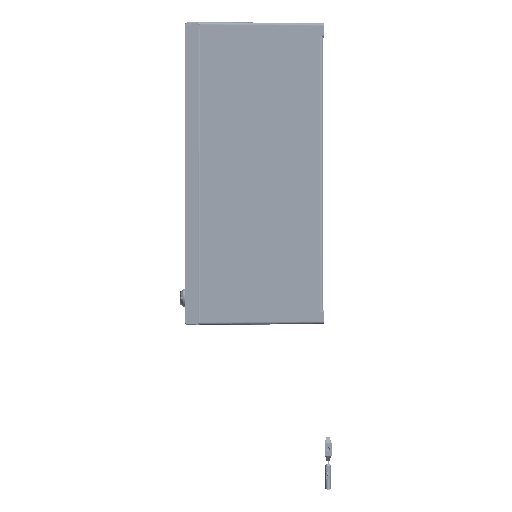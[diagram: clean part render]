
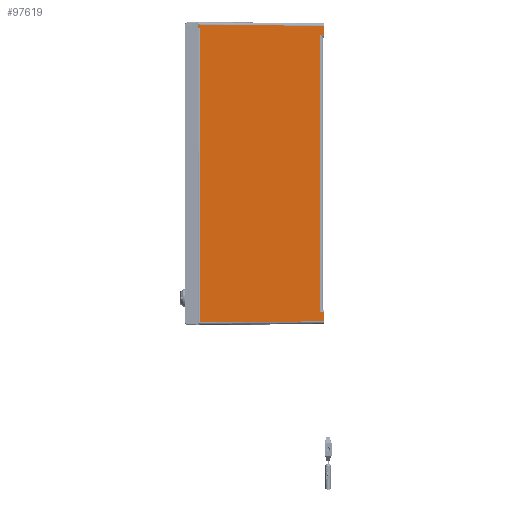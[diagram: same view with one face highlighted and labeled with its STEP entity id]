
A CAD part, left-side view. The second image highlights one B-rep face of the part: STEP entity #97619.
In plain terms, the highlighted planar face has unit normal (-1, -0.018, 0).
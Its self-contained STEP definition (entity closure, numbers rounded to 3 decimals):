
#7093=FACE_OUTER_BOUND('',#13598,.T.);
#13598=EDGE_LOOP('',(#66923,#66924,#66925,#66926,#66927,#66928,#66929,#66930,
#66931,#66932,#66933,#66934,#66935));
#20549=B_SPLINE_CURVE_WITH_KNOTS('',3,(#155851,#155852,#155853,#155854,
#155855),.UNSPECIFIED.,.F.,.F.,(4,1,4),(0.,0.5,1.),.UNSPECIFIED.);
#20554=B_SPLINE_CURVE_WITH_KNOTS('',3,(#156136,#156137,#156138,#156139,
#156140,#156141,#156142,#156143,#156144,#156145,#156146,#156147),
 .UNSPECIFIED.,.F.,.F.,(4,1,1,1,1,1,1,1,1,4),(0.,0.111,0.222,
0.333,0.444,0.556,0.667,0.778,
0.889,1.),.UNSPECIFIED.);
#28727=LINE('',#153704,#35032);
#28751=LINE('',#155440,#35056);
#28752=LINE('',#155593,#35057);
#28761=LINE('',#156122,#35066);
#28762=LINE('',#156125,#35067);
#28763=LINE('',#156127,#35068);
#28764=LINE('',#156129,#35069);
#28765=LINE('',#156130,#35070);
#28766=LINE('',#156131,#35071);
#28767=LINE('',#156133,#35072);
#28768=LINE('',#156135,#35073);
#35032=VECTOR('',#116728,14.936);
#35056=VECTOR('',#116824,14.936);
#35057=VECTOR('',#116829,203.617);
#35066=VECTOR('',#116856,8.267);
#35067=VECTOR('',#116859,485.244);
#35068=VECTOR('',#116860,5.441);
#35069=VECTOR('',#116861,457.257);
#35070=VECTOR('',#116862,5.441);
#35071=VECTOR('',#116863,203.617);
#35072=VECTOR('',#116864,4.525);
#35073=VECTOR('',#116865,4.822);
#41524=VERTEX_POINT('',#153600);
#41525=VERTEX_POINT('',#153703);
#41561=VERTEX_POINT('',#155336);
#41562=VERTEX_POINT('',#155439);
#41563=VERTEX_POINT('',#155592);
#41577=VERTEX_POINT('',#155835);
#41579=VERTEX_POINT('',#155850);
#41580=VERTEX_POINT('',#156078);
#41581=VERTEX_POINT('',#156124);
#41582=VERTEX_POINT('',#156126);
#41583=VERTEX_POINT('',#156128);
#41584=VERTEX_POINT('',#156132);
#41585=VERTEX_POINT('',#156134);
#51057=EDGE_CURVE('',#41524,#41525,#28727,.T.);
#51122=EDGE_CURVE('',#41561,#41562,#28751,.T.);
#51125=EDGE_CURVE('',#41562,#41563,#28752,.T.);
#51146=EDGE_CURVE('',#41577,#41579,#20549,.T.);
#51151=EDGE_CURVE('',#41577,#41580,#28761,.T.);
#51152=EDGE_CURVE('',#41581,#41563,#28762,.T.);
#51153=EDGE_CURVE('',#41561,#41582,#28763,.T.);
#51154=EDGE_CURVE('',#41582,#41583,#28764,.T.);
#51155=EDGE_CURVE('',#41525,#41583,#28765,.T.);
#51156=EDGE_CURVE('',#41579,#41524,#28766,.T.);
#51157=EDGE_CURVE('',#41580,#41584,#28767,.T.);
#51158=EDGE_CURVE('',#41585,#41584,#28768,.T.);
#51159=EDGE_CURVE('',#41585,#41581,#20554,.T.);
#66923=ORIENTED_EDGE('',*,*,#51152,.T.);
#66924=ORIENTED_EDGE('',*,*,#51125,.F.);
#66925=ORIENTED_EDGE('',*,*,#51122,.F.);
#66926=ORIENTED_EDGE('',*,*,#51153,.T.);
#66927=ORIENTED_EDGE('',*,*,#51154,.T.);
#66928=ORIENTED_EDGE('',*,*,#51155,.F.);
#66929=ORIENTED_EDGE('',*,*,#51057,.F.);
#66930=ORIENTED_EDGE('',*,*,#51156,.F.);
#66931=ORIENTED_EDGE('',*,*,#51146,.F.);
#66932=ORIENTED_EDGE('',*,*,#51151,.T.);
#66933=ORIENTED_EDGE('',*,*,#51157,.T.);
#66934=ORIENTED_EDGE('',*,*,#51158,.F.);
#66935=ORIENTED_EDGE('',*,*,#51159,.T.);
#95857=PLANE('',#104587);
#97619=ADVANCED_FACE('',(#7093),#95857,.T.);
#104587=AXIS2_PLACEMENT_3D('',#156123,#116857,#116858);
#116728=DIRECTION('',(0.,0.,-1.));
#116824=DIRECTION('',(0.,0.,-1.));
#116829=DIRECTION('',(-0.017,1.,-0.009));
#116856=DIRECTION('',(-0.017,1.,-0.019));
#116857=DIRECTION('center_axis',(-1.,-0.017,
0.));
#116858=DIRECTION('ref_axis',(0.,0.,-1.));
#116859=DIRECTION('',(0.,0.,-1.));
#116860=DIRECTION('',(-0.017,1.,0.017));
#116861=DIRECTION('',(0.,0.,1.));
#116862=DIRECTION('',(-0.017,1.,-0.017));
#116863=DIRECTION('',(0.017,-1.,-0.009));
#116864=DIRECTION('',(0.,0.,-1.));
#116865=DIRECTION('',(-0.017,1.,0.017));
#153600=CARTESIAN_POINT('',(-285.216,-1.017,243.659));
#153703=CARTESIAN_POINT('',(-285.216,-1.017,228.723));
#153704=CARTESIAN_POINT('',(-285.216,-1.017,243.659));
#155336=CARTESIAN_POINT('',(-285.216,-1.017,-228.723));
#155439=CARTESIAN_POINT('',(-285.216,-1.017,-243.659));
#155440=CARTESIAN_POINT('',(-285.216,-1.017,-228.723));
#155592=CARTESIAN_POINT('',(-288.77,202.561,-245.436));
#155593=CARTESIAN_POINT('',(-285.216,-1.017,-243.659));
#155835=CARTESIAN_POINT('',(-288.773,202.753,245.677));
#155850=CARTESIAN_POINT('',(-288.77,202.561,245.436));
#155851=CARTESIAN_POINT('Ctrl Pts',(-288.773,202.753,245.677));
#155852=CARTESIAN_POINT('Ctrl Pts',(-288.773,202.72,245.639));
#155853=CARTESIAN_POINT('Ctrl Pts',(-288.772,202.664,245.542));
#155854=CARTESIAN_POINT('Ctrl Pts',(-288.771,202.595,245.473));
#155855=CARTESIAN_POINT('Ctrl Pts',(-288.77,202.561,245.436));
#156078=CARTESIAN_POINT('',(-288.918,211.017,245.518));
#156122=CARTESIAN_POINT('',(-288.773,202.753,245.677));
#156123=CARTESIAN_POINT('Origin',(-288.83,206.,-259.763));
#156124=CARTESIAN_POINT('',(-288.771,202.561,239.809));
#156125=CARTESIAN_POINT('',(-288.77,202.561,239.809));
#156126=CARTESIAN_POINT('',(-285.311,4.421,-228.628));
#156127=CARTESIAN_POINT('',(-285.216,-1.017,-228.723));
#156128=CARTESIAN_POINT('',(-285.311,4.421,228.628));
#156129=CARTESIAN_POINT('',(-285.311,4.421,-228.628));
#156130=CARTESIAN_POINT('',(-285.216,-1.017,228.723));
#156131=CARTESIAN_POINT('',(-288.77,202.561,245.436));
#156132=CARTESIAN_POINT('',(-288.918,211.017,240.993));
#156133=CARTESIAN_POINT('',(-288.918,211.017,245.518));
#156134=CARTESIAN_POINT('',(-288.834,206.196,240.908));
#156135=CARTESIAN_POINT('',(-288.834,206.196,240.908));
#156136=CARTESIAN_POINT('Ctrl Pts',(-288.834,206.196,240.908));
#156137=CARTESIAN_POINT('Ctrl Pts',(-288.827,206.013,240.903));
#156138=CARTESIAN_POINT('Ctrl Pts',(-288.825,205.658,240.902));
#156139=CARTESIAN_POINT('Ctrl Pts',(-288.815,205.174,240.82));
#156140=CARTESIAN_POINT('Ctrl Pts',(-288.807,204.701,240.68));
#156141=CARTESIAN_POINT('Ctrl Pts',(-288.8,204.274,240.544));
#156142=CARTESIAN_POINT('Ctrl Pts',(-288.793,203.876,240.511));
#156143=CARTESIAN_POINT('Ctrl Pts',(-288.786,203.486,240.546));
#156144=CARTESIAN_POINT('Ctrl Pts',(-288.78,203.098,240.563));
#156145=CARTESIAN_POINT('Ctrl Pts',(-288.771,202.671,240.355));
#156146=CARTESIAN_POINT('Ctrl Pts',(-288.772,202.564,240.022));
#156147=CARTESIAN_POINT('Ctrl Pts',(-288.77,202.561,239.809));
